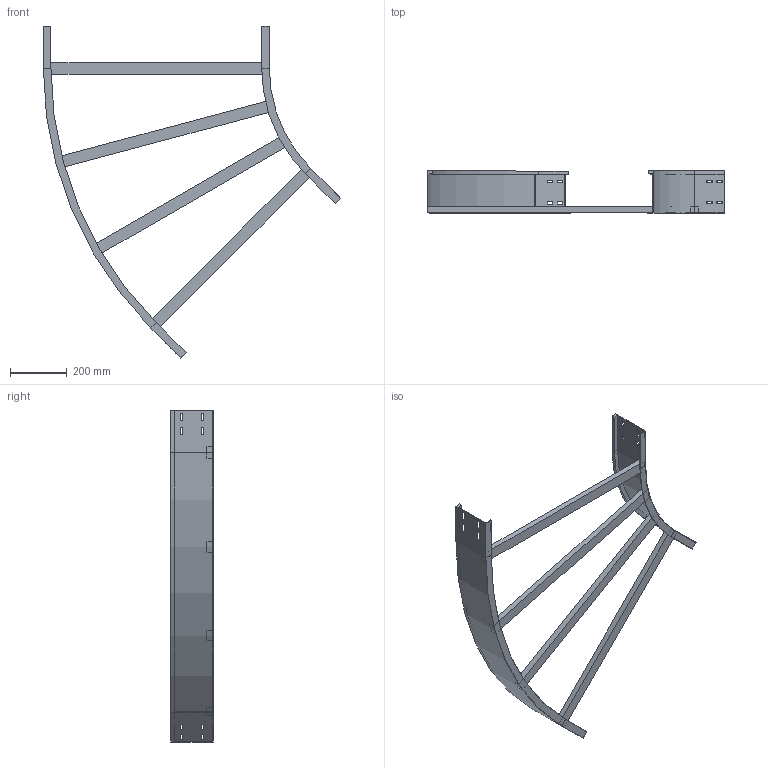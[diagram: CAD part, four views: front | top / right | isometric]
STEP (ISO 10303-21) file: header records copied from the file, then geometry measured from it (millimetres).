
FILE_DESCRIPTION (( 'STEP AP214' ), '1' );
FILE_NAME ('11J5F800.step', '2025-02-21T16:24:26', ( '' ), ( '' ), 'SwSTEP 2.0', 'SolidWorks 2023', '' );
FILE_SCHEMA (( 'AUTOMOTIVE_DESIGN' ));
Length unit declared in the file: millimetre
Products named in the file (4): LONGH.INTERNO 45°_H150_R500; LONGH.ESTERNO 45°_H150_R500+800; 11J5F800; TRAVERSINO_800
Assembly tree (6 placements, depth 2):
  11J5F800
    LONGH.INTERNO 45°_H150_R500
    LONGH.ESTERNO 45°_H150_R500+800
    TRAVERSINO_800  x4
Bounding box: 1052.51 x 150 x 1175.3 mm (x, y, z)
Volume: 3663274.4 mm3; surface area: 1166182.6 mm2
Topology: 6 solids, 6 shells, 140 faces, 352 edges, 224 vertices
Faces by surface type: plane 132, cylinder 8
Entity records: 3829 total; most frequent: CARTESIAN_POINT 647, ORIENTED_EDGE 632, DIRECTION 594, EDGE_CURVE 316, LINE 300, VECTOR 300, VERTEX_POINT 200, EDGE_LOOP 154
